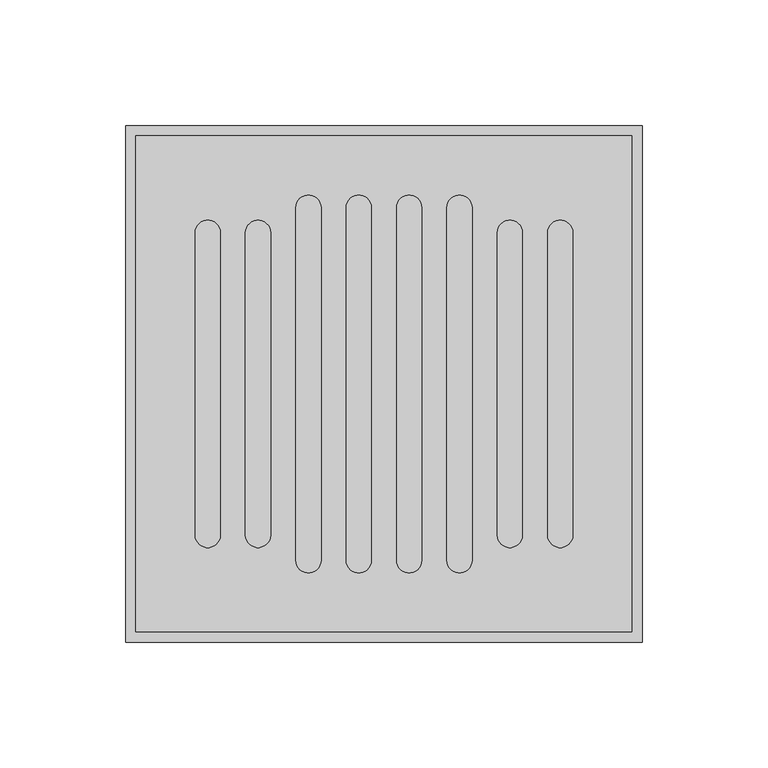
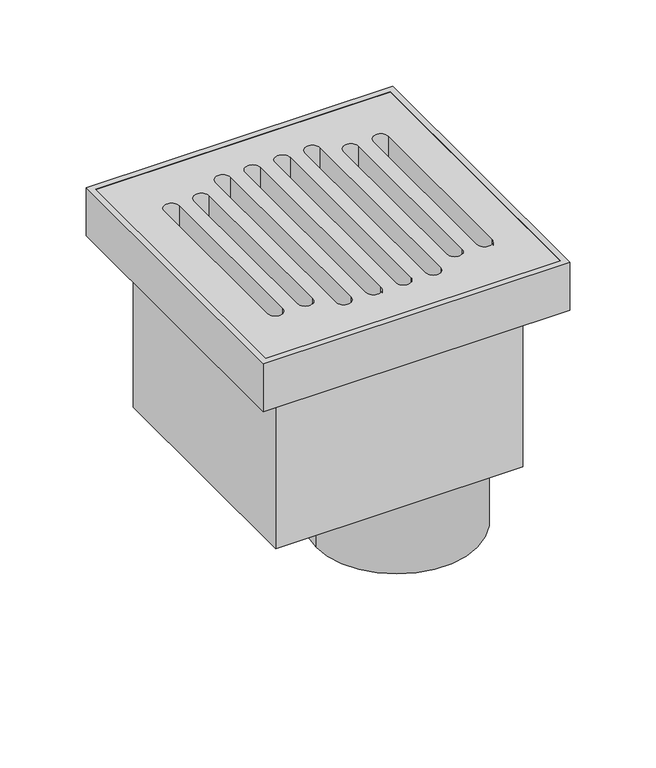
"""IFC4 building model written with IfcOpenShell, lengths in millimetres: sanitary terminal geometry, PF_ST_UN_680489_Siphon Fonte COMPLET SORTIE DN100_ACO : PF_ST_UN_680489_Siphon Fonte COMPLET SORTIE DN100_ACO."""

import ifcopenshell
import ifcopenshell.guid

model = None  # the IFC model being written
_history = None  # IfcOwnerHistory: only IFC2X3 demands one
_inside = {}  # id of a spatial element -> (the spatial element, [elements in it])
_under = {}  # id of a project, library or spatial element -> (it, [spatial elements below it])
_declared = {}  # id of a project -> (the project, [libraries it declares])
_typed = {}  # id of a type object -> (the type object, [elements of that type])
_made_of = {}  # id of a material, layer set ... -> (it, [elements and type objects made of it])


def new_model(schema):
    """Start an empty IFC model of exactly this schema.

    Asked for "IFC4X3", IfcOpenShell would pick the latest addendum, in which some entities
    have other attributes; the version numbers below select the first issue.
    IFC2X3 requires an IfcOwnerHistory on every rooted entity: one is made here for all.
    """
    global model, _history
    if schema == "IFC4X3":
        model = ifcopenshell.file(schema_version=(4, 3, 0, 0))
    else:
        model = ifcopenshell.file(schema=schema)
    _inside.clear()
    _under.clear()
    _declared.clear()
    _typed.clear()
    _made_of.clear()
    _history = None
    if model.schema == "IFC2X3":
        org = make("IfcOrganization", Name="unknown")
        user = make(
            "IfcPersonAndOrganization",
            ThePerson=make("IfcPerson", FamilyName="unknown"),
            TheOrganization=org,
        )
        app = make(
            "IfcApplication",
            ApplicationDeveloper=org,
            Version="unknown",
            ApplicationFullName="unknown",
            ApplicationIdentifier="unknown",
        )
        _history = make(
            "IfcOwnerHistory",
            OwningUser=user,
            OwningApplication=app,
            ChangeAction="ADDED",
            CreationDate=0,
        )
    return model


def make(cls, **values):
    """One entity of the class cls with the attributes given. An attribute that is None is left unset."""
    return model.create_entity(
        cls, **{name: value for name, value in values.items() if value is not None}
    )


def rooted(cls, **values):
    """An entity with a GlobalId (a new one), such as an element, a storey or a relation."""
    return make(cls, GlobalId=ifcopenshell.guid.new(), OwnerHistory=_history, **values)


def si_unit(unit_type, name, prefix=None):
    """IfcSIUnit, for example si_unit("LENGTHUNIT", "METRE", prefix="MILLI")."""
    return make("IfcSIUnit", UnitType=unit_type, Prefix=prefix, Name=name)


def assignment(units):
    """IfcUnitAssignment: the units of a project."""
    return None if units is None else make("IfcUnitAssignment", Units=units)


def point(xyz):
    """IfcCartesianPoint."""
    return None if xyz is None else make("IfcCartesianPoint", Coordinates=xyz)


def direction(xyz):
    """IfcDirection."""
    return None if xyz is None else make("IfcDirection", DirectionRatios=xyz)


def frame(location, z_axis=None, x_axis=None):
    """IfcAxis2Placement3D, a coordinate frame: its origin and axes. An axis left out is left unset."""
    return make(
        "IfcAxis2Placement3D",
        Location=point(location),
        Axis=direction(z_axis),
        RefDirection=direction(x_axis),
    )


def frame_2d(location, x_axis=None):
    """IfcAxis2Placement2D, a coordinate frame in the plane: its origin and x axis."""
    return make(
        "IfcAxis2Placement2D", Location=point(location), RefDirection=direction(x_axis)
    )


def origin():
    """The frame at (0, 0, 0) with its axes left unset."""
    return frame((0.0, 0.0, 0.0))


def place(relative_to, where):
    """IfcLocalPlacement: puts the frame where relative to a parent placement (None: the world)."""
    return make(
        "IfcLocalPlacement", PlacementRelTo=relative_to, RelativePlacement=where
    )


def context(
    kind, dimensions, precision=None, world=None, true_north=None, identifier=None
):
    """IfcGeometricRepresentationContext, for example the 3D "Model" context."""
    return make(
        "IfcGeometricRepresentationContext",
        ContextIdentifier=identifier,
        ContextType=kind,
        CoordinateSpaceDimension=dimensions,
        Precision=precision,
        WorldCoordinateSystem=world,
        TrueNorth=true_north,
    )


def project(units=None, contexts=None):
    """IfcProject with its units and contexts."""
    return rooted(
        "IfcProject",
        Name="project",
        RepresentationContexts=contexts,
        UnitsInContext=assignment(units),
    )


def spatial(cls, under=None, at=None, **own):
    """A site, building, storey or space (cls), placed at a placement, below another one or the project."""
    s = rooted(cls, ObjectPlacement=at, **own)
    if under is not None:
        _under.setdefault(under.id(), (under, []))[1].append(s)
    return s


def polyline(points):
    """IfcPolyline through the points."""
    return make("IfcPolyline", Points=[point(p) for p in points])


def circle_curve(where, radius):
    """IfcCircle in the frame where."""
    return make("IfcCircle", Position=where, Radius=radius)


def trimmed(basis, trim1, trim2, sense, master):
    """IfcTrimmedCurve: the piece of a basis curve between two trims."""
    return make(
        "IfcTrimmedCurve",
        BasisCurve=basis,
        Trim1=trim1,
        Trim2=trim2,
        SenseAgreement=sense,
        MasterRepresentation=master,
    )


def segment(curve, same_sense, transition):
    """IfcCompositeCurveSegment."""
    return make(
        "IfcCompositeCurveSegment",
        Transition=transition,
        SameSense=same_sense,
        ParentCurve=curve,
    )


def composite_curve(segments, self_intersect=None):
    """IfcCompositeCurve: segments joined end to end."""
    return make("IfcCompositeCurve", Segments=segments, SelfIntersect=self_intersect)


def outline(outer, holes=None, kind="AREA"):
    """IfcArbitraryClosedProfileDef: a profile drawn as a closed curve; with holes, ...WithVoids."""
    if holes is None:
        return make("IfcArbitraryClosedProfileDef", ProfileType=kind, OuterCurve=outer)
    return make(
        "IfcArbitraryProfileDefWithVoids",
        ProfileType=kind,
        OuterCurve=outer,
        InnerCurves=holes,
    )


def extrude(swept, where, along, depth):
    """IfcExtrudedAreaSolid: the profile swept, set in the frame where, extruded along a direction by depth."""
    return make(
        "IfcExtrudedAreaSolid",
        SweptArea=swept,
        Position=where,
        ExtrudedDirection=direction(along),
        Depth=depth,
    )


def shape(context_of_items, identifier, shape_type, items):
    """IfcShapeRepresentation: the items that make up one representation, for example the "Body"."""
    return make(
        "IfcShapeRepresentation",
        ContextOfItems=context_of_items,
        RepresentationIdentifier=identifier,
        RepresentationType=shape_type,
        Items=items,
    )


def source(mapping_origin, context_of_items, identifier, shape_type, items):
    """IfcRepresentationMap: a shape defined once, which mapped items show again and again."""
    return make(
        "IfcRepresentationMap",
        MappingOrigin=mapping_origin,
        MappedRepresentation=shape(context_of_items, identifier, shape_type, items),
    )


def transform(
    local_origin,
    x_axis=None,
    y_axis=None,
    z_axis=None,
    scale=None,
    scale2=None,
    scale3=None,
    uniform=True,
):
    """IfcCartesianTransformationOperator3D, or its non-uniform kind. x_axis, y_axis, z_axis: its Axis1, 2, 3."""
    if uniform:
        return make(
            "IfcCartesianTransformationOperator3D",
            Axis1=direction(x_axis),
            Axis2=direction(y_axis),
            LocalOrigin=point(local_origin),
            Scale=scale,
            Axis3=direction(z_axis),
        )
    return make(
        "IfcCartesianTransformationOperator3DnonUniform",
        Axis1=direction(x_axis),
        Axis2=direction(y_axis),
        LocalOrigin=point(local_origin),
        Scale=scale,
        Axis3=direction(z_axis),
        Scale2=scale2,
        Scale3=scale3,
    )


def mapped(mapping_source, mapping_target):
    """IfcMappedItem: shows the shape of a source again, moved by a transform."""
    return make(
        "IfcMappedItem", MappingSource=mapping_source, MappingTarget=mapping_target
    )


def made_of(thing, what):
    """Note that an element or type object is made of a material, layer set ...; save() writes the relation."""
    if what is not None:
        _made_of.setdefault(what.id(), (what, []))[1].append(thing)
    return thing


def element(
    cls,
    number,
    at=None,
    inside=None,
    cuts=None,
    type_object=None,
    material=None,
    context=None,
    identifier="Body",
    shape_type=None,
    held_by="IfcProductDefinitionShape",
    body=None,
    shapes=None,
    **own,
):
    """One element of the class cls, such as IfcWall. Its Tag is "e" and its number.

    at: its placement. inside: the storey or other place that contains it. cuts: it is an
    opening in that element (IfcRelVoidsElement). A single representation is given by context,
    identifier, shape_type and body (its items); several are given by shapes. held_by: the class
    of the entity that holds the representations. save() writes the other relations.
    """
    e = rooted(cls, Tag="e%d" % number, ObjectPlacement=at, **own)
    if body is not None:
        shapes = [shape(context, identifier, shape_type, body)]
    if shapes is not None:
        e.Representation = make(held_by, Representations=shapes)
    if inside is not None:
        _inside.setdefault(inside.id(), (inside, []))[1].append(e)
    if cuts is not None:
        rooted(
            "IfcRelVoidsElement", RelatingBuildingElement=cuts, RelatedOpeningElement=e
        )
    if type_object is not None:
        _typed.setdefault(type_object.id(), (type_object, []))[1].append(e)
    return made_of(e, material)


def aggregate(whole, parts):
    """IfcRelAggregates: a whole, such as a stair, and the parts it consists of."""
    return rooted("IfcRelAggregates", RelatingObject=whole, RelatedObjects=parts)


def save(model, path):
    """Write the relations noted so far, then the file.

    IfcRelAggregates (storeys below a building ...), IfcRelContainedInSpatialStructure (elements
    in a storey), IfcRelDefinesByType, IfcRelAssociatesMaterial and IfcRelDeclares: one each for
    every whole, place, type object, material and project.
    """
    for whole, parts in _under.values():
        aggregate(whole, parts)
    for where, things in _inside.values():
        rooted(
            "IfcRelContainedInSpatialStructure",
            RelatedElements=things,
            RelatingStructure=where,
        )
    for kind, things in _typed.values():
        rooted("IfcRelDefinesByType", RelatedObjects=things, RelatingType=kind)
    for what, things in _made_of.values():
        rooted("IfcRelAssociatesMaterial", RelatedObjects=things, RelatingMaterial=what)
    for by, libraries in _declared.values():
        rooted("IfcRelDeclares", RelatingContext=by, RelatedDefinitions=libraries)
    model.write(path)


def plane_surface(at):
    """IfcPlane: the flat surface through the origin of the frame at, square to its z axis."""
    return make("IfcPlane", Position=at)


def cylinder_surface(at, radius):
    """IfcCylindricalSurface: all points at the distance radius from the z axis of the frame at."""
    return make("IfcCylindricalSurface", Position=at, Radius=radius)


def revolved_surface(curve, axis_point, axis_direction):
    """IfcSurfaceOfRevolution: the curve turned about the line through axis_point along axis_direction."""
    return make(
        "IfcSurfaceOfRevolution",
        SweptCurve=make("IfcArbitraryOpenProfileDef", ProfileType="CURVE", Curve=curve),
        AxisPosition=make("IfcAxis1Placement", Location=point(axis_point), Axis=direction(axis_direction)),
    )


def advanced_brep(points, edges, surfaces, faces):
    """IfcAdvancedBrep: a solid bounded by faces that lie on surfaces and meet in shared edges.

    An edge is (start, end): straight between two places in points (the first is 0);
    or (start, end, curve); or (start, end, curve, False) where it runs against its curve.
    A face is (place in surfaces, loops), or (place, loops, False) where it looks against
    its surface's normal. A loop lists edges by number (the first is 1), with a minus sign
    where the edge is run from its end to its start. The first loop is the outer one.
    """
    corners = [point(p) for p in points]
    vertices = [make("IfcVertexPoint", VertexGeometry=c) for c in corners]
    made = []
    for start, end, *more in edges:
        made.append(
            make(
                "IfcEdgeCurve",
                EdgeStart=vertices[start],
                EdgeEnd=vertices[end],
                EdgeGeometry=more[0] if more else make("IfcPolyline", Points=[corners[start], corners[end]]),
                SameSense=more[1] if len(more) > 1 else True,
            )
        )
    hull = []
    for where, loops, *sense in faces:
        bounds = []
        for j, loop in enumerate(loops):
            ring = [make("IfcOrientedEdge", EdgeElement=made[abs(k) - 1], Orientation=k > 0) for k in loop]
            bounds.append(
                make(
                    "IfcFaceOuterBound" if j == 0 else "IfcFaceBound",
                    Bound=make("IfcEdgeLoop", EdgeList=ring),
                    Orientation=True,
                )
            )
        hull.append(make("IfcAdvancedFace", Bounds=bounds, FaceSurface=surfaces[where], SameSense=sense[0] if sense else True))
    return make("IfcAdvancedBrep", Outer=make("IfcClosedShell", CfsFaces=hull))


def sanitary_terminal_b75d6cc5(model_context):
    return source(origin(), model_context, "Body", "SolidModel", [
        advanced_brep(
        [(102.5, 102.5, 0.0), (-102.5, 102.5, 0.0), (-102.5, -102.5, 0.0), (102.5, -102.5, 0.0), (98.5, 98.5, 0.0), (98.5, -98.5, 0.0), (-98.5, -98.5, 0.0), (-98.5, 98.5, 0.0), (102.5, 102.5, -34.0), (-102.5, 102.5, -34.0), (-102.5, -102.5, -34.0), (102.5, -102.5, -34.0), (98.5, 98.5, -19.0), (98.5, -98.5, -19.0), (-98.5, -98.5, -19.0), (-98.5, 98.5, -19.0), (82.5, 82.5, -34.0), (-82.5, 82.5, -34.0), (-82.5, -82.5, -34.0), (82.5, -82.5, -34.0), (82.5, -39.7963566, -34.0), (100.0, 0.0, -34.0), (82.5, 39.7963566, -34.0), (82.5, -34.1723572, -34.0), (82.5, 34.1723572, -34.0), (96.0, 0.0, -34.0), (82.5, -82.5, -150.0), (-82.5, -82.5, -150.0), (-82.5, 82.5, -150.0), (82.5, 82.5, -150.0), (82.5, 39.7963566, -150.0), (-8.0, 0.0, -150.0), (82.5, -39.7963566, -150.0), (82.5, 34.1723572, -150.0), (82.5, -34.1723572, -150.0), (-4.0, 0.0, -150.0), (-8.0, 0.0, -225.0), (100.0, 0.0, -225.0), (-4.0, 0.0, -225.0), (96.0, 0.0, -225.0)],
        [
            (0, 1),
            (1, 2),
            (2, 3),
            (3, 0),
            (4, 5),
            (5, 6),
            (6, 7),
            (7, 4),
            (0, 8),
            (8, 9),
            (9, 1),
            (9, 10),
            (10, 2),
            (10, 11),
            (11, 3),
            (11, 8),
            (4, 12),
            (12, 13),
            (13, 5),
            (13, 14),
            (14, 6),
            (14, 15),
            (15, 7),
            (15, 12),
            (16, 17),
            (17, 18),
            (18, 19),
            (19, 20),
            (20, 21, circle_curve(frame((46.0, 0.0, -34.0), z_axis=(0.0, 0.0, 1.0), x_axis=(1.0, 0.0, 0.0)), 54.0)),
            (21, 22, circle_curve(frame((46.0, 0.0, -34.0), z_axis=(0.0, 0.0, 1.0), x_axis=(1.0, 0.0, 0.0)), 54.0)),
            (22, 16),
            (23, 24),
            (24, 25, circle_curve(frame((46.0, 0.0, -34.0), z_axis=(0.0, 0.0, -1.0), x_axis=(1.0, 0.0, 0.0)), 50.0)),
            (25, 23, circle_curve(frame((46.0, 0.0, -34.0), z_axis=(0.0, 0.0, -1.0), x_axis=(1.0, 0.0, 0.0)), 50.0)),
            (26, 27),
            (27, 28),
            (28, 29),
            (29, 30),
            (30, 31, circle_curve(frame((46.0, 0.0, -150.0), z_axis=(0.0, 0.0, 1.0), x_axis=(1.0, 0.0, 0.0)), 54.0)),
            (31, 32, circle_curve(frame((46.0, 0.0, -150.0), z_axis=(0.0, 0.0, 1.0), x_axis=(1.0, 0.0, 0.0)), 54.0)),
            (32, 26),
            (33, 34),
            (34, 35, circle_curve(frame((46.0, 0.0, -150.0), z_axis=(0.0, 0.0, -1.0), x_axis=(1.0, 0.0, 0.0)), 50.0)),
            (35, 33, circle_curve(frame((46.0, 0.0, -150.0), z_axis=(0.0, 0.0, -1.0), x_axis=(1.0, 0.0, 0.0)), 50.0)),
            (28, 17),
            (16, 29),
            (27, 18),
            (26, 19),
            (23, 34),
            (33, 24),
            (22, 30),
            (32, 20),
            (36, 37, circle_curve(frame((46.0, 0.0, -225.0), z_axis=(0.0, 0.0, -1.0), x_axis=(1.0, 0.0, 0.0)), 54.0)),
            (37, 36, circle_curve(frame((46.0, 0.0, -225.0), z_axis=(0.0, 0.0, -1.0), x_axis=(1.0, 0.0, 0.0)), 54.0)),
            (38, 39, circle_curve(frame((46.0, 0.0, -225.0), z_axis=(0.0, 0.0, 1.0), x_axis=(1.0, 0.0, 0.0)), 50.0)),
            (39, 38, circle_curve(frame((46.0, 0.0, -225.0), z_axis=(0.0, 0.0, 1.0), x_axis=(1.0, 0.0, 0.0)), 50.0)),
            (37, 21),
            (31, 36),
            (39, 25),
            (35, 38),
        ],
        [
            plane_surface(frame((-102.5, 102.5, 0.0), z_axis=(0.0, 0.0, 1.0), x_axis=(-1.0, 0.0, 0.0))),
            plane_surface(frame((102.5, 102.5, 0.0), z_axis=(0.0, 1.0, 0.0), x_axis=(0.0, 0.0, -1.0))),
            plane_surface(frame((-102.5, 102.5, 0.0), z_axis=(-1.0, 0.0, 0.0), x_axis=(0.0, 0.0, -1.0))),
            plane_surface(frame((-102.5, -102.5, 0.0), z_axis=(0.0, -1.0, 0.0), x_axis=(0.0, 0.0, -1.0))),
            plane_surface(frame((102.5, -102.5, 0.0), z_axis=(1.0, 0.0, 0.0), x_axis=(0.0, 0.0, -1.0))),
            plane_surface(frame((98.5, 98.5, 0.0), z_axis=(-1.0, 0.0, 0.0), x_axis=(0.0, 0.0, -1.0))),
            plane_surface(frame((98.5, -98.5, 0.0), z_axis=(0.0, 1.0, 0.0), x_axis=(0.0, 0.0, -1.0))),
            plane_surface(frame((-98.5, -98.5, 0.0), z_axis=(1.0, 0.0, 0.0), x_axis=(0.0, 0.0, -1.0))),
            plane_surface(frame((-98.5, 98.5, 0.0), z_axis=(0.0, -1.0, 0.0), x_axis=(0.0, 0.0, -1.0))),
            plane_surface(frame((-102.5, 102.5, -34.0), z_axis=(0.0, 0.0, -1.0), x_axis=(1.0, 0.0, 0.0))),
            plane_surface(frame((-102.5, 102.5, -19.0), z_axis=(0.0, 0.0, 1.0), x_axis=(-1.0, 0.0, 0.0))),
            plane_surface(frame((-82.5, 82.5, -150.0), z_axis=(0.0, 0.0, -1.0), x_axis=(1.0, 0.0, 0.0))),
            plane_surface(frame((82.5, 82.5, -19.0), z_axis=(0.0, 1.0, 0.0), x_axis=(0.0, 0.0, -1.0))),
            plane_surface(frame((-82.5, 82.5, -19.0), z_axis=(-1.0, 0.0, 0.0), x_axis=(0.0, 0.0, -1.0))),
            plane_surface(frame((-82.5, -82.5, -19.0), z_axis=(0.0, -1.0, 0.0), x_axis=(0.0, 0.0, -1.0))),
            plane_surface(frame((82.5, -82.5, -19.0), z_axis=(1.0, 0.0, 0.0), x_axis=(0.0, 0.0, -1.0))),
            plane_surface(frame((100.0, 0.0, -225.0), z_axis=(0.0, 0.0, -1.0), x_axis=(0.0, -1.0, 0.0))),
            cylinder_surface(frame((46.0, 0.0, -225.0), z_axis=(0.0, 0.0, 1.0), x_axis=(1.0, 0.0, 0.0)), 54.0),
            revolved_surface(polyline([(96.0, 0.0, -225.0), (96.0, 0.0, -34.0)]), (46.0, 0.0, 0.0), (0.0, 0.0, -1.0)),
        ],
        [
            (0, [[1, 2, 3, 4], [5, 6, 7, 8]]),
            (1, [[-1, 9, 10, 11]]),
            (2, [[-2, -11, 12, 13]]),
            (3, [[-3, -13, 14, 15]]),
            (4, [[-4, -15, 16, -9]]),
            (5, [[-5, 17, 18, 19]]),
            (6, [[-6, -19, 20, 21]]),
            (7, [[-7, -21, 22, 23]]),
            (8, [[-8, -23, 24, -17]]),
            (9, [[-16, -14, -12, -10], [25, 26, 27, 28, 29, 30, 31]]),
            (9, [[32, 33, 34]]),
            (10, [[-18, -24, -22, -20]]),
            (11, [[35, 36, 37, 38, 39, 40, 41]]),
            (11, [[42, 43, 44]]),
            (12, [[-37, 45, -25, 46]]),
            (13, [[-36, 47, -26, -45]]),
            (14, [[-35, 48, -27, -47]]),
            (15, [[-32, 49, -42, 50]]),
            (15, [[-46, -31, 51, -38]]),
            (15, [[-48, -41, 52, -28]]),
            (16, [[53, 54], [55, 56]]),
            (17, [[-54, 57, -29, -52, -40, 58]]),
            (17, [[-53, -58, -39, -51, -30, -57]]),
            (18, [[-56, 59, -33, -50, -44, 60]]),
            (18, [[-55, -60, -43, -49, -34, -59]]),
        ],
    ),
        extrude(outline(polyline([(98.5, 98.5), (98.5, -98.5), (-98.5, -98.5), (-98.5, 98.5), (98.5, 98.5)]), holes=[composite_curve([segment(trimmed(circle_curve(frame_2d((10.0, -70.0)), 5.0), [point((5.0, -70.0))], [point((15.0, -70.0))], True, "CARTESIAN"), True, "CONTINUOUS"), segment(polyline([(15.0, -70.0), (15.0, 70.0)]), True, "CONTINUOUS"), segment(trimmed(circle_curve(frame_2d((10.0, 70.0)), 5.0), [point((15.0, 70.0))], [point((5.0, 70.0))], True, "CARTESIAN"), True, "CONTINUOUS"), segment(polyline([(5.0, 70.0), (5.0, -70.0)]), True, "CONTINUOUS")], self_intersect=False), composite_curve([segment(trimmed(circle_curve(frame_2d((30.0, -70.0)), 5.0), [point((25.0, -70.0))], [point((35.0, -70.0))], True, "CARTESIAN"), True, "CONTINUOUS"), segment(polyline([(35.0, -70.0), (35.0, 70.0)]), True, "CONTINUOUS"), segment(trimmed(circle_curve(frame_2d((30.0, 70.0)), 5.0), [point((35.0, 70.0))], [point((25.0, 70.0))], True, "CARTESIAN"), True, "CONTINUOUS"), segment(polyline([(25.0, 70.0), (25.0, -70.0)]), True, "CONTINUOUS")], self_intersect=False), composite_curve([segment(trimmed(circle_curve(frame_2d((50.0, -60.0)), 5.0), [point((45.0, -60.0))], [point((55.0, -60.0))], True, "CARTESIAN"), True, "CONTINUOUS"), segment(polyline([(55.0, -60.0), (55.0, 60.0)]), True, "CONTINUOUS"), segment(trimmed(circle_curve(frame_2d((50.0, 60.0)), 5.0), [point((55.0, 60.0))], [point((45.0, 60.0))], True, "CARTESIAN"), True, "CONTINUOUS"), segment(polyline([(45.0, 60.0), (45.0, -60.0)]), True, "CONTINUOUS")], self_intersect=False), composite_curve([segment(trimmed(circle_curve(frame_2d((70.0, -60.0)), 5.0), [point((65.0, -60.0))], [point((75.0, -60.0))], True, "CARTESIAN"), True, "CONTINUOUS"), segment(polyline([(75.0, -60.0), (75.0, 60.0)]), True, "CONTINUOUS"), segment(trimmed(circle_curve(frame_2d((70.0, 60.0)), 5.0), [point((75.0, 60.0))], [point((65.0, 60.0))], True, "CARTESIAN"), True, "CONTINUOUS"), segment(polyline([(65.0, 60.0), (65.0, -60.0)]), True, "CONTINUOUS")], self_intersect=False), composite_curve([segment(polyline([(-5.0, -70.0), (-5.0, 70.0)]), True, "CONTINUOUS"), segment(trimmed(circle_curve(frame_2d((-10.0, 70.0)), 5.0), [point((-5.0, 70.0))], [point((-15.0, 70.0))], True, "CARTESIAN"), True, "CONTINUOUS"), segment(polyline([(-15.0, 70.0), (-15.0, -70.0)]), True, "CONTINUOUS"), segment(trimmed(circle_curve(frame_2d((-10.0, -70.0)), 5.0), [point((-15.0, -70.0))], [point((-5.0, -70.0))], True, "CARTESIAN"), True, "CONTINUOUS")], self_intersect=False), composite_curve([segment(polyline([(-25.0, -70.0), (-25.0, 70.0)]), True, "CONTINUOUS"), segment(trimmed(circle_curve(frame_2d((-30.0, 70.0)), 5.0), [point((-25.0, 70.0))], [point((-35.0, 70.0))], True, "CARTESIAN"), True, "CONTINUOUS"), segment(polyline([(-35.0, 70.0), (-35.0, -70.0)]), True, "CONTINUOUS"), segment(trimmed(circle_curve(frame_2d((-30.0, -70.0)), 5.0), [point((-35.0, -70.0))], [point((-25.0, -70.0))], True, "CARTESIAN"), True, "CONTINUOUS")], self_intersect=False), composite_curve([segment(polyline([(-45.0, -60.0), (-45.0, 60.0)]), True, "CONTINUOUS"), segment(trimmed(circle_curve(frame_2d((-50.0, 60.0)), 5.0), [point((-45.0, 60.0))], [point((-55.0, 60.0))], True, "CARTESIAN"), True, "CONTINUOUS"), segment(polyline([(-55.0, 60.0), (-55.0, -60.0)]), True, "CONTINUOUS"), segment(trimmed(circle_curve(frame_2d((-50.0, -60.0)), 5.0), [point((-55.0, -60.0))], [point((-45.0, -60.0))], True, "CARTESIAN"), True, "CONTINUOUS")], self_intersect=False), composite_curve([segment(polyline([(-65.0, -60.0), (-65.0, 60.0)]), True, "CONTINUOUS"), segment(trimmed(circle_curve(frame_2d((-70.0, 60.0)), 5.0), [point((-65.0, 60.0))], [point((-75.0, 60.0))], True, "CARTESIAN"), True, "CONTINUOUS"), segment(polyline([(-75.0, 60.0), (-75.0, -60.0)]), True, "CONTINUOUS"), segment(trimmed(circle_curve(frame_2d((-70.0, -60.0)), 5.0), [point((-75.0, -60.0))], [point((-65.0, -60.0))], True, "CARTESIAN"), True, "CONTINUOUS")], self_intersect=False)]), frame((0.0, 0.0, -19.0), z_axis=(0.0, 0.0, 1.0), x_axis=(1.0, 0.0, 0.0)), (0.0, 0.0, 1.0), 19.0),
    ])


if __name__ == "__main__":
    model = new_model("IFC4")
    model_context = context("Model", 3, world=origin())
    ifc_project = project(units=[si_unit("LENGTHUNIT", "METRE", prefix="MILLI")], contexts=[model_context])
    site = spatial("IfcSite", under=ifc_project)
    building = spatial("IfcBuilding", under=site)
    placement = place(None, origin())
    sanitary_terminal_shape = sanitary_terminal_b75d6cc5(model_context)
    element("IfcSanitaryTerminal", 1, ObjectType="PF_ST_UN_680489_Siphon Fonte COMPLET SORTIE DN100_ACO : PF_ST_UN_680489_Siphon Fonte COMPLET SORTIE DN100_ACO", at=placement, inside=building, context=model_context, shape_type="MappedRepresentation", body=[
        mapped(sanitary_terminal_shape, transform((0.0, 0.0, 0.0), x_axis=(1.0, 0.0, 0.0), y_axis=(0.0, 1.0, 0.0), z_axis=(0.0, 0.0, 1.0))),
    ])
    save(model, "model.ifc")
